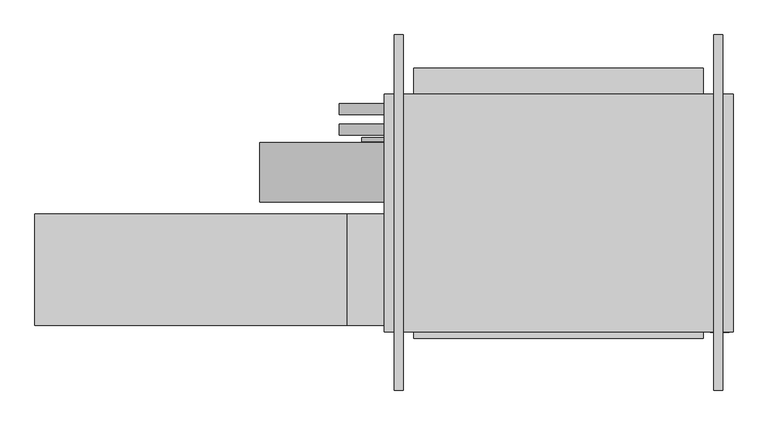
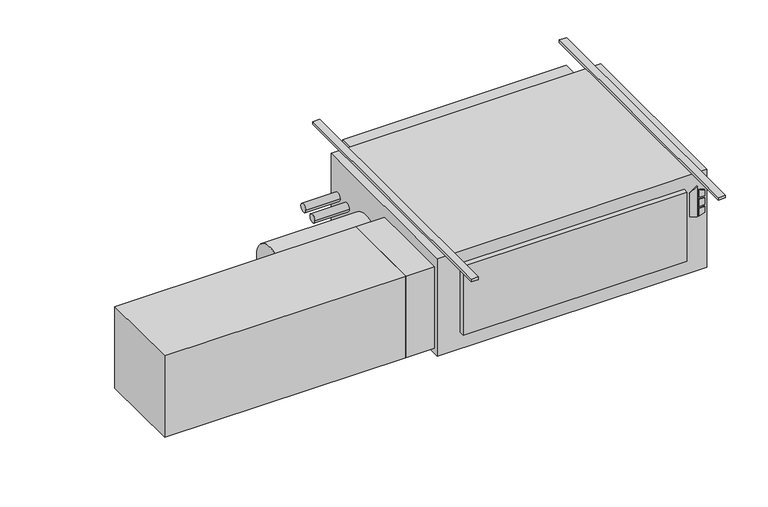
"""IFC4 building model written with IfcOpenShell, lengths in millimetres: proxy geometry."""

from ifc_helpers import new_model, si_unit, point, frame, frame_2d, origin, origin_with_axes, place, context, project, spatial, polyline, circle_curve, trimmed, segment, composite_curve, outline, extrude, source, transform, mapped, element, save


def mechanical_equipment_982238e7(model_context):
    return source(origin(), model_context, "Body", "SweptSolid", [
        extrude(outline(polyline([(-193.2519297, 671.5868862), (-203.2, 703.7602728), (-61.0290756, 703.7602728), (-84.0510817, 671.5868862), (-193.2519297, 671.5868862)])), frame((0.0, -647.7, 0.0), z_axis=(0.0, 1.0, 0.0), x_axis=(0.0, 0.0, 1.0)), (0.0, 0.0, 1.0), 3.175),
        extrude(outline(polyline([(-114.2526443, 710.5186058), (-117.4550368, 736.6), (-88.2261958, 736.6), (-80.1617807, 710.5186058), (-114.2526443, 710.5186058)])), frame((0.0, -647.7, 0.0), z_axis=(0.0, 1.0, 0.0), x_axis=(0.0, 0.0, 1.0)), (0.0, 0.0, 1.0), 3.175),
        extrude(outline(polyline([(-166.1161712, 736.6), (-169.7816721, 710.5186058), (-203.2, 710.5186058), (-194.5657628, 736.6), (-166.1161712, 736.6)])), frame((0.0, -647.7, 0.0), z_axis=(0.0, 1.0, 0.0), x_axis=(0.0, 0.0, 1.0)), (0.0, 0.0, 1.0), 3.175),
        extrude(outline(polyline([(-126.8010097, 736.6), (-124.5191834, 710.5186058), (-160.4567319, 710.5186058), (-157.7154669, 736.6), (-126.8010097, 736.6)])), frame((0.0, -647.7, 0.0), z_axis=(0.0, 1.0, 0.0), x_axis=(0.0, 0.0, 1.0)), (0.0, 0.0, 1.0), 3.175),
        extrude(outline(polyline([(647.7, -666.877), (-342.9, -666.877), (-342.9, -644.525), (647.7, -644.525), (647.7, -666.877)])), frame((0.0, 0.0, -381.0), z_axis=(0.0, 0.0, 1.0), x_axis=(1.0, 0.0, 0.0)), (0.0, 0.0, 1.0), 323.85),
        extrude(outline(polyline([(-1638.3, -622.3), (-1638.3, -241.3), (-571.5, -241.3), (-571.5, -622.3), (-1638.3, -622.3)])), frame((0.0, 0.0, -431.8), z_axis=(0.0, 0.0, 1.0), x_axis=(1.0, 0.0, 0.0)), (0.0, 0.0, 1.0), 381.0),
        extrude(outline(polyline([(-444.5, -241.3), (-444.5, -622.3), (-571.5, -622.3), (-571.5, -241.3), (-444.5, -241.3)])), frame((0.0, 0.0, -431.8), z_axis=(0.0, 0.0, 1.0), x_axis=(1.0, 0.0, 0.0)), (0.0, 0.0, 1.0), 381.0),
        extrude(outline(composite_curve([segment(trimmed(circle_curve(frame_2d((-98.4896516, -228.6360165)), 101.6), [point((-200.0896516, -228.6360165))], [point((3.1103484, -228.6360165))], False, "CARTESIAN"), True, "CONTINUOUS"), segment(trimmed(circle_curve(frame_2d((-98.4896516, -228.6360165)), 101.6), [point((3.1103484, -228.6360165))], [point((-200.0896516, -228.6360165))], False, "CARTESIAN"), True, "CONTINUOUS")], self_intersect=False)), frame((-869.95, 0.0, 0.0), z_axis=(1.0, 0.0, 0.0), x_axis=(0.0, 1.0, 0.0)), (0.0, 0.0, 1.0), 425.45),
        extrude(outline(composite_curve([segment(trimmed(circle_curve(frame_2d((47.625, -177.8)), 19.05), [point((28.575, -177.8))], [point((66.675, -177.8))], False, "CARTESIAN"), True, "CONTINUOUS"), segment(trimmed(circle_curve(frame_2d((47.625, -177.8)), 19.05), [point((66.675, -177.8))], [point((28.575, -177.8))], False, "CARTESIAN"), True, "CONTINUOUS")], self_intersect=False)), frame((-596.9, 0.0, 0.0), z_axis=(1.0, 0.0, 0.0), x_axis=(0.0, 1.0, 0.0)), (0.0, 0.0, 1.0), 152.4),
        extrude(outline(composite_curve([segment(trimmed(circle_curve(frame_2d((117.475, -171.45)), 19.05), [point((98.425, -171.45))], [point((136.525, -171.45))], False, "CARTESIAN"), True, "CONTINUOUS"), segment(trimmed(circle_curve(frame_2d((117.475, -171.45)), 19.05), [point((136.525, -171.45))], [point((98.425, -171.45))], False, "CARTESIAN"), True, "CONTINUOUS")], self_intersect=False)), frame((-596.9, 0.0, 0.0), z_axis=(1.0, 0.0, 0.0), x_axis=(0.0, 1.0, 0.0)), (0.0, 0.0, 1.0), 152.4),
        extrude(outline(composite_curve([segment(trimmed(circle_curve(frame_2d((12.7, -409.575)), 6.35), [point((6.35, -409.575))], [point((19.05, -409.575))], False, "CARTESIAN"), True, "CONTINUOUS"), segment(trimmed(circle_curve(frame_2d((12.7, -409.575)), 6.35), [point((19.05, -409.575))], [point((6.35, -409.575))], False, "CARTESIAN"), True, "CONTINUOUS")], self_intersect=False)), frame((-520.7, 0.0, 0.0), z_axis=(1.0, 0.0, 0.0), x_axis=(0.0, 1.0, 0.0)), (0.0, 0.0, 1.0), 76.2),
        extrude(outline(polyline([(749.3, 168.275), (749.3, -644.525), (-444.5, -644.525), (-444.5, 168.275), (749.3, 168.275)])), frame((0.0, 0.0, -457.2), z_axis=(0.0, 0.0, 1.0), x_axis=(1.0, 0.0, 0.0)), (0.0, 0.0, 1.0), 457.2),
        extrude(outline(polyline([(-342.9, 257.175), (647.7, 257.175), (647.7, 168.275), (-342.9, 168.275), (-342.9, 257.175)])), frame((0.0, 0.0, -381.0), z_axis=(0.0, 0.0, 1.0), x_axis=(1.0, 0.0, 0.0)), (0.0, 0.0, 1.0), 355.6),
        extrude(outline(polyline([(-377.825, 371.475), (-377.825, -844.677), (-409.575, -844.677), (-409.575, 371.475), (-377.825, 371.475)])), origin_with_axes(), (0.0, 0.0, 1.0), 12.7),
        extrude(outline(polyline([(714.375, 371.475), (714.375, -844.677), (682.625, -844.677), (682.625, 371.475), (714.375, 371.475)])), origin_with_axes(), (0.0, 0.0, 1.0), 12.7),
    ])


if __name__ == "__main__":
    model = new_model("IFC4")
    model_context = context("Model", 3, world=origin())
    ifc_project = project(units=[si_unit("LENGTHUNIT", "METRE", prefix="MILLI")], contexts=[model_context])
    site = spatial("IfcSite", under=ifc_project)
    building = spatial("IfcBuilding", under=site)
    placement = place(None, origin())
    mechanical_equipment_shape = mechanical_equipment_982238e7(model_context)
    element("IfcBuildingElementProxy", 1, Name="High_Capacity_Horizontal_Cabinet_Fan_Coil_Unit_-_HTY_-_IEC_-_2-Pipe_WO-Attenuator_LH Side_2022 : Size 16 - 277v/60Hz/1Ph - 8/0 Coil - 8\" AirIn", ObjectType="High_Capacity_Horizontal_Cabinet_Fan_Coil_Unit_-_HTY_-_IEC_-_2-Pipe_WO-Attenuator_LH Side_2022 : Size 16 - 277v/60Hz/1Ph - 8/0 Coil - 8\" AirIn", at=placement, inside=building, context=model_context, shape_type="MappedRepresentation", body=[
        mapped(mechanical_equipment_shape, transform((0.0, 0.0, 0.0), x_axis=(1.0, 0.0, 0.0), y_axis=(0.0, 1.0, 0.0), z_axis=(0.0, 0.0, 1.0))),
    ])
    save(model, "model.ifc")
